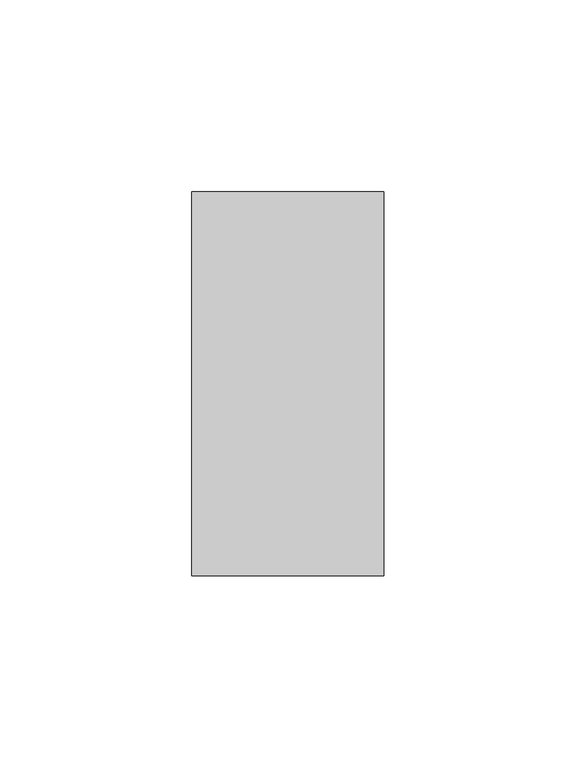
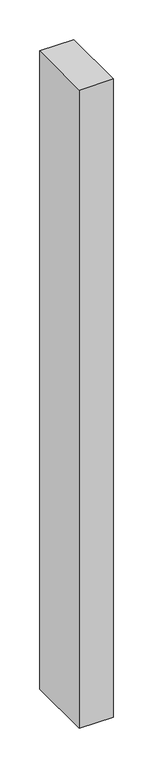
"""IFC4 building model written with IfcOpenShell, lengths in millimetres: member geometry, Прямоугольный импост : 50х100."""

from ifc_helpers import new_model, si_unit, frame, origin, place, context, project, spatial, polyline, outline, extrude, source, transform, mapped, element, save


def member_c717b3e6(model_context):
    return source(origin(), model_context, "Body", "SweptSolid", [
        extrude(outline(polyline([(0.0, 50.0), (0.0, -50.0), (-50.0, -50.0), (-50.0, 50.0), (0.0, 50.0)])), frame((0.0, 0.0, -985.0), z_axis=(0.0, 0.0, 1.0), x_axis=(1.0, 0.0, 0.0)), (0.0, 0.0, 1.0), 985.0),
    ])


if __name__ == "__main__":
    model = new_model("IFC4")
    model_context = context("Model", 3, world=origin())
    ifc_project = project(units=[si_unit("LENGTHUNIT", "METRE", prefix="MILLI")], contexts=[model_context])
    site = spatial("IfcSite", under=ifc_project)
    building = spatial("IfcBuilding", under=site)
    placement = place(None, origin())
    member_shape = member_c717b3e6(model_context)
    element("IfcMember", 1, ObjectType="Прямоугольный импост : 50х100", at=placement, inside=building, context=model_context, shape_type="MappedRepresentation", body=[
        mapped(member_shape, transform((0.0, 0.0, 0.0), x_axis=(1.0, 0.0, 0.0), y_axis=(0.0, 1.0, 0.0), z_axis=(0.0, 0.0, 1.0))),
    ])
    save(model, "model.ifc")
